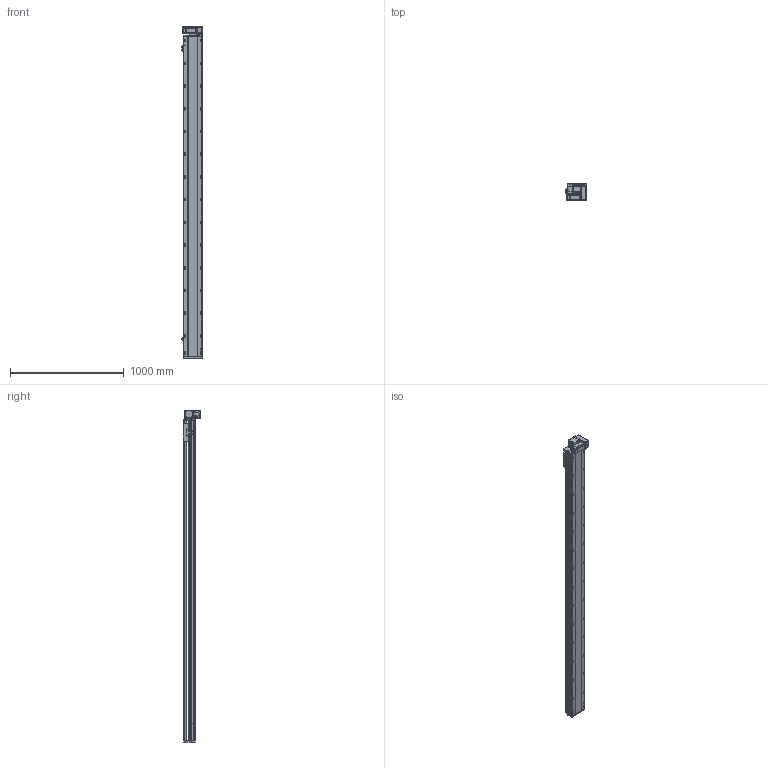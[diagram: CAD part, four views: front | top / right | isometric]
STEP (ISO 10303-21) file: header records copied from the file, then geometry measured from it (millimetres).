
FILE_DESCRIPTION (( 'STEP AP214' ), '1' );
FILE_NAME ('RTB17S-XX-2550-RM-M40-C4.STEP', '2025-12-11T08:31:31', ( '' ), ( '' ), 'SwSTEP 2.0', 'SolidWorks 2018', '' );
FILE_SCHEMA (( 'AUTOMOTIVE_DESIGN' ));
Length unit declared in the file: millimetre
Products named in the file (14): RTB17S-L-007奻裔^RTB17S-XX-XX-RM-M40-C4; RTB17S-RM-々湍釱蚾饜-400W^RTB17S-XX-XX-RM-M40-C4; RTB17-R-011菁釱^RTB17S-XX-XX-RM-M40-C4; RTB14-L-018P^RTB17S-RM-々湍釱蚾饜-400W_RTB17S-XX-XX-RM-M40-C4; RTB14-L-017P^RTB17S-RM-々湍釱蚾饜-400W_RTB17S-XX-XX-RM-M40-C4; RTB17S-L-014-T20--々湍釱^RTB17S-RM-々湍釱蚾饜-400W_RTB17S-XX-XX-RM-M40-C4; RTH13-BL-012覜茼え俋离^RTB17S-XX-XX-RM-M40-C4; RTB17S-L-004佪裝蹟譫蟀諉釱^RTB17S-XX-XX-RM-M40-C4; RTB17S-XX-2550-RM-M40-C4; RTB14-L-008-M20--萇儂啣^RTB17S-RM-々湍釱蚾饜-400W_RTB17S-XX-XX-RM-M40-C4; 400W侜督萇儂^RTB17S-XX-XX-RM-M40-C4; RTB17S-L-001耜醱啣^RTB17S-XX-XX-RM-M40-C4; RTB14-L-005P--轴承塑胶压盖^RTB17S-RM-皮带座装配-400W_RTB17S-XX-XX-RM-M40-C4; OMRON EE-SX672 传感器^RTB17S-XX-XX-RM-M40-C4
Assembly tree (16 placements, depth 3):
  RTB17S-XX-2550-RM-M40-C4
    RTB17-R-011菁釱^RTB17S-XX-XX-RM-M40-C4
    RTB17S-L-007奻裔^RTB17S-XX-XX-RM-M40-C4
    OMRON EE-SX672 传感器^RTB17S-XX-XX-RM-M40-C4  x3
    RTB17S-L-001耜醱啣^RTB17S-XX-XX-RM-M40-C4
    400W侜督萇儂^RTB17S-XX-XX-RM-M40-C4
    RTB17S-L-004佪裝蹟譫蟀諉釱^RTB17S-XX-XX-RM-M40-C4
    RTH13-BL-012覜茼え俋离^RTB17S-XX-XX-RM-M40-C4
    RTB17S-RM-々湍釱蚾饜-400W^RTB17S-XX-XX-RM-M40-C4
      RTB17S-L-014-T20--々湍釱^RTB17S-RM-々湍釱蚾饜-400W_RTB17S-XX-XX-RM-M40-C4
      RTB14-L-005P--轴承塑胶压盖^RTB17S-RM-皮带座装配-400W_RTB17S-XX-XX-RM-M40-C4
      RTB14-L-008-M20--萇儂啣^RTB17S-RM-々湍釱蚾饜-400W_RTB17S-XX-XX-RM-M40-C4
      RTB14-L-017P^RTB17S-RM-々湍釱蚾饜-400W_RTB17S-XX-XX-RM-M40-C4  x2
      RTB14-L-018P^RTB17S-RM-々湍釱蚾饜-400W_RTB17S-XX-XX-RM-M40-C4
Bounding box: 183.5 x 156.5 x 2922.5 mm (x, y, z)
Volume: 25014468 mm3; surface area: 2876466.5 mm2
Topology: 15 solids, 15 shells, 2333 faces, 6519 edges, 4257 vertices
Faces by surface type: plane 1084, cylinder 801, bspline 301, cone 139, torus 8
Entity records: 68777 total; most frequent: CARTESIAN_POINT 19524, ORIENTED_EDGE 9882, DIRECTION 9116, EDGE_CURVE 4941, VERTEX_POINT 3245, AXIS2_PLACEMENT_3D 3175, VECTOR 2766, LINE 2766
